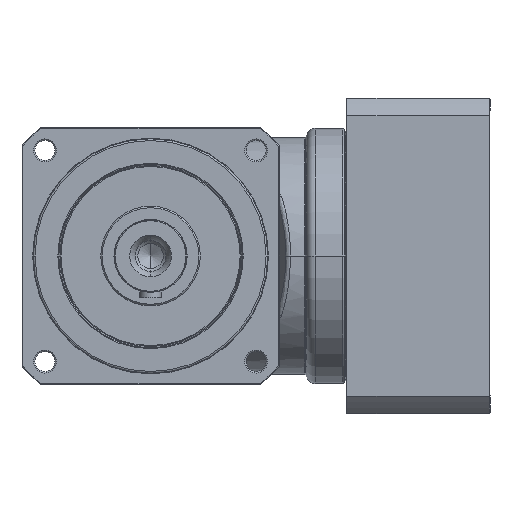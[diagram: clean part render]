
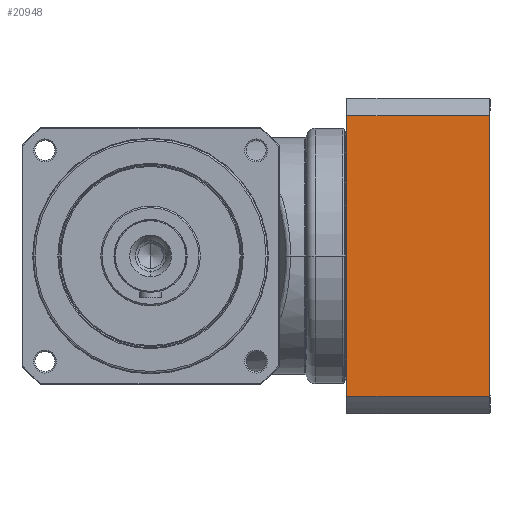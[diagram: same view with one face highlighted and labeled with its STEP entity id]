
A CAD part, left-side view. The second image highlights one B-rep face of the part: STEP entity #20948.
In plain terms, the highlighted planar face has unit normal (-1, 0, 0) as drawn and (0, -1, 0) by its records, which use the part's own axes.
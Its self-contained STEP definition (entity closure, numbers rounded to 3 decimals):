
#19804=DIRECTION('',(1.,0.,0.));
#19805=VECTOR('',#19804,154.961);
#19806=CARTESIAN_POINT('',(-77.481,-87.,
3.));
#19807=LINE('',#19806,#19805);
#19808=DIRECTION('',(0.,0.,1.));
#19809=VECTOR('',#19808,78.5);
#19810=CARTESIAN_POINT('',(-77.481,-87.,
3.));
#19811=LINE('',#19810,#19809);
#19812=DIRECTION('',(1.,0.,0.));
#19813=VECTOR('',#19812,154.961);
#19814=CARTESIAN_POINT('',(-77.481,-87.,
81.5));
#19815=LINE('',#19814,#19813);
#19816=DIRECTION('',(0.,0.,1.));
#19817=VECTOR('',#19816,78.5);
#19818=CARTESIAN_POINT('',(77.481,-87.,
3.));
#19819=LINE('',#19818,#19817);
#20513=CARTESIAN_POINT('',(-77.481,-87.,
81.5));
#20514=CARTESIAN_POINT('',(77.481,-87.,
81.5));
#20515=VERTEX_POINT('',#20513);
#20516=VERTEX_POINT('',#20514);
#20550=CARTESIAN_POINT('',(-77.481,-87.,3.));
#20552=VERTEX_POINT('',#20550);
#20555=CARTESIAN_POINT('',(77.481,-87.,
3.));
#20556=VERTEX_POINT('',#20555);
#20934=CARTESIAN_POINT('',(-87.,-87.,0.));
#20935=DIRECTION('',(0.,-1.,0.));
#20936=DIRECTION('',(1.,0.,0.));
#20937=AXIS2_PLACEMENT_3D('',#20934,#20935,#20936);
#20938=PLANE('',#20937);
#20939=ORIENTED_EDGE('',*,*,#20928,.F.);
#20941=ORIENTED_EDGE('',*,*,#20940,.T.);
#20943=ORIENTED_EDGE('',*,*,#20942,.T.);
#20945=ORIENTED_EDGE('',*,*,#20944,.F.);
#20946=EDGE_LOOP('',(#20939,#20941,#20943,#20945));
#20947=FACE_OUTER_BOUND('',#20946,.F.);
#20948=ADVANCED_FACE('',(#20947),#20938,.T.);
#20928=EDGE_CURVE('',#20552,#20556,#19807,.T.);
#20940=EDGE_CURVE('',#20552,#20515,#19811,.T.);
#20942=EDGE_CURVE('',#20515,#20516,#19815,.T.);
#20944=EDGE_CURVE('',#20556,#20516,#19819,.T.);
